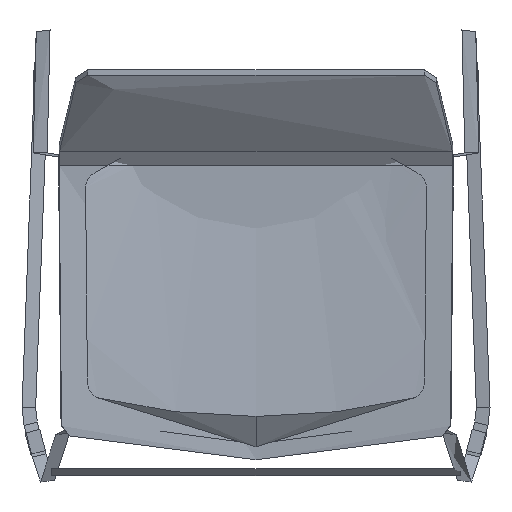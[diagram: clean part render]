
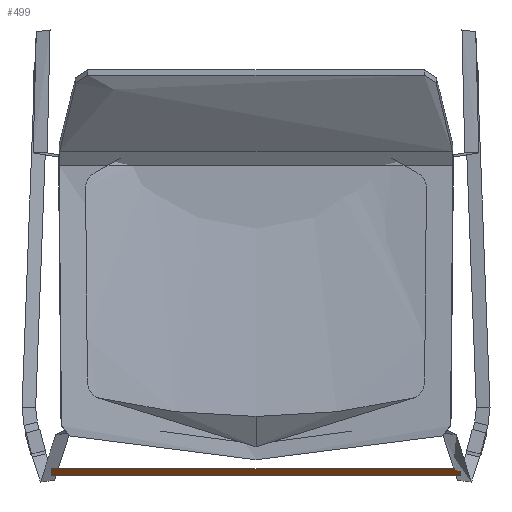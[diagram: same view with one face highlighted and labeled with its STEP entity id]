
A CAD part, top view. The second image highlights one B-rep face of the part: STEP entity #499.
In plain terms, the highlighted free-form (B-spline) face has degree [2, 1] with [5, 2] control points.
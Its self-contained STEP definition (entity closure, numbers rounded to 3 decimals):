
#189=(
BOUNDED_CURVE()
B_SPLINE_CURVE(2,(#9038,#9039,#9040),.UNSPECIFIED.,.F.,.F.)
B_SPLINE_CURVE_WITH_KNOTS((3,3),(0.,12.566),.UNSPECIFIED.)
CURVE()
GEOMETRIC_REPRESENTATION_ITEM()
RATIONAL_B_SPLINE_CURVE((1.,0.707,1.))
REPRESENTATION_ITEM('')
);
#190=(
BOUNDED_CURVE()
B_SPLINE_CURVE(2,(#9041,#9042,#9043),.UNSPECIFIED.,.F.,.F.)
B_SPLINE_CURVE_WITH_KNOTS((3,3),(38.574,50.265),
 .UNSPECIFIED.)
CURVE()
GEOMETRIC_REPRESENTATION_ITEM()
RATIONAL_B_SPLINE_CURVE((1.,0.742,1.))
REPRESENTATION_ITEM('')
);
#191=(
BOUNDED_CURVE()
B_SPLINE_CURVE(2,(#9044,#9045,#9046),.UNSPECIFIED.,.F.,.F.)
B_SPLINE_CURVE_WITH_KNOTS((3,3),(-50.265,-38.574),
 .UNSPECIFIED.)
CURVE()
GEOMETRIC_REPRESENTATION_ITEM()
RATIONAL_B_SPLINE_CURVE((1.,0.742,1.))
REPRESENTATION_ITEM('')
);
#193=(
BOUNDED_CURVE()
B_SPLINE_CURVE(1,(#9054,#9055),.UNSPECIFIED.,.F.,.F.)
B_SPLINE_CURVE_WITH_KNOTS((2,2),(0.,466.173),
 .UNSPECIFIED.)
CURVE()
GEOMETRIC_REPRESENTATION_ITEM()
RATIONAL_B_SPLINE_CURVE((1.,1.))
REPRESENTATION_ITEM('')
);
#194=(
BOUNDED_CURVE()
B_SPLINE_CURVE(1,(#9056,#9057),.UNSPECIFIED.,.F.,.F.)
B_SPLINE_CURVE_WITH_KNOTS((2,2),(0.,466.173),
 .UNSPECIFIED.)
CURVE()
GEOMETRIC_REPRESENTATION_ITEM()
RATIONAL_B_SPLINE_CURVE((1.,1.))
REPRESENTATION_ITEM('')
);
#196=(
BOUNDED_CURVE()
B_SPLINE_CURVE(2,(#9065,#9066,#9067),.UNSPECIFIED.,.F.,.F.)
B_SPLINE_CURVE_WITH_KNOTS((3,3),(-12.566,0.),.UNSPECIFIED.)
CURVE()
GEOMETRIC_REPRESENTATION_ITEM()
RATIONAL_B_SPLINE_CURVE((1.,0.707,1.))
REPRESENTATION_ITEM('')
);
#346=(
BOUNDED_SURFACE()
B_SPLINE_SURFACE(2,1,((#9008,#9009),(#9010,#9011),(#9012,#9013),(#9014,
#9015),(#9016,#9017)),.UNSPECIFIED.,.F.,.F.,.F.)
B_SPLINE_SURFACE_WITH_KNOTS((3,2,3),(2,2),(0.,11.691,24.258),
(0.,466.173),.UNSPECIFIED.)
GEOMETRIC_REPRESENTATION_ITEM()
RATIONAL_B_SPLINE_SURFACE(((0.962,0.962),(0.728,
0.728),(1.,1.),(0.707,0.707),(1.,1.)))
REPRESENTATION_ITEM('')
SURFACE()
);
#499=ADVANCED_FACE('',(#633),#346,.T.);
#633=FACE_OUTER_BOUND('',#767,.T.);
#767=EDGE_LOOP('',(#1231,#1232,#1233,#1234,#1235,#1236));
#1231=ORIENTED_EDGE('',*,*,#1619,.T.);
#1232=ORIENTED_EDGE('',*,*,#1621,.T.);
#1233=ORIENTED_EDGE('',*,*,#1616,.T.);
#1234=ORIENTED_EDGE('',*,*,#1618,.F.);
#1235=ORIENTED_EDGE('',*,*,#1615,.T.);
#1236=ORIENTED_EDGE('',*,*,#1614,.T.);
#1614=EDGE_CURVE('',#1922,#1926,#189,.T.);
#1615=EDGE_CURVE('',#1923,#1922,#190,.T.);
#1616=EDGE_CURVE('',#1924,#1925,#191,.T.);
#1618=EDGE_CURVE('',#1923,#1925,#193,.T.);
#1619=EDGE_CURVE('',#1926,#1927,#194,.T.);
#1621=EDGE_CURVE('',#1927,#1924,#196,.T.);
#1922=VERTEX_POINT('',#9032);
#1923=VERTEX_POINT('',#9033);
#1924=VERTEX_POINT('',#9034);
#1925=VERTEX_POINT('',#9035);
#1926=VERTEX_POINT('',#9036);
#1927=VERTEX_POINT('',#9037);
#9008=CARTESIAN_POINT('',(233.086,-219.882,202.04));
#9009=CARTESIAN_POINT('',(-233.086,-219.882,202.04));
#9010=CARTESIAN_POINT('',(233.086,-227.08,202.766));
#9011=CARTESIAN_POINT('',(-233.086,-227.08,202.766));
#9012=CARTESIAN_POINT('',(233.086,-227.08,210.));
#9013=CARTESIAN_POINT('',(-233.086,-227.08,210.));
#9014=CARTESIAN_POINT('',(233.086,-227.08,218.));
#9015=CARTESIAN_POINT('',(-233.086,-227.08,218.));
#9016=CARTESIAN_POINT('',(233.086,-219.08,218.));
#9017=CARTESIAN_POINT('',(-233.086,-219.08,218.));
#9032=CARTESIAN_POINT('',(233.086,-227.08,210.));
#9033=CARTESIAN_POINT('',(233.086,-219.882,202.04));
#9034=CARTESIAN_POINT('',(-233.086,-227.08,210.));
#9035=CARTESIAN_POINT('',(-233.086,-219.882,202.04));
#9036=CARTESIAN_POINT('',(233.086,-219.08,218.));
#9037=CARTESIAN_POINT('',(-233.086,-219.08,218.));
#9038=CARTESIAN_POINT('',(233.086,-227.08,210.));
#9039=CARTESIAN_POINT('',(233.086,-227.08,218.));
#9040=CARTESIAN_POINT('',(233.086,-219.08,218.));
#9041=CARTESIAN_POINT('',(233.086,-219.882,202.04));
#9042=CARTESIAN_POINT('',(233.086,-227.08,202.766));
#9043=CARTESIAN_POINT('',(233.086,-227.08,210.));
#9044=CARTESIAN_POINT('',(-233.086,-227.08,210.));
#9045=CARTESIAN_POINT('',(-233.086,-227.08,202.766));
#9046=CARTESIAN_POINT('',(-233.086,-219.882,202.04));
#9054=CARTESIAN_POINT('',(233.086,-219.882,202.04));
#9055=CARTESIAN_POINT('',(-233.086,-219.882,202.04));
#9056=CARTESIAN_POINT('',(233.086,-219.08,218.));
#9057=CARTESIAN_POINT('',(-233.086,-219.08,218.));
#9065=CARTESIAN_POINT('',(-233.086,-219.08,218.));
#9066=CARTESIAN_POINT('',(-233.086,-227.08,218.));
#9067=CARTESIAN_POINT('',(-233.086,-227.08,210.));
